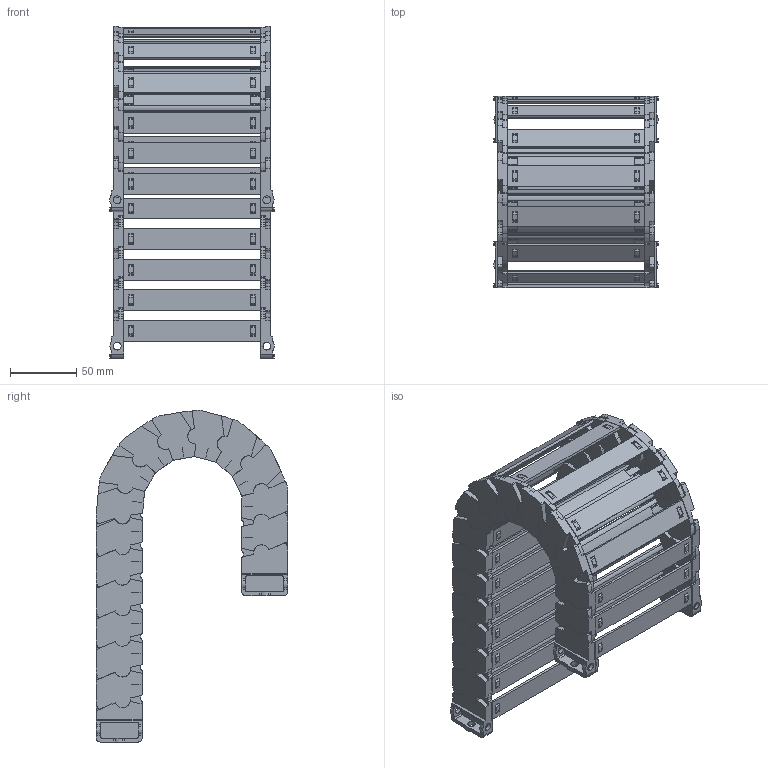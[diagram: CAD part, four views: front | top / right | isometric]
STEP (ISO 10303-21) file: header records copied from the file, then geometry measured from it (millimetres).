
FILE_DESCRIPTION((''),'2;1');
FILE_NAME('JY-25X103-R55_ASM','2022-05-07T10:15:35',('admin'),(''),'CREO PARAMETRIC BY PTC INC, 2021164','CREO PARAMETRIC BY PTC INC, 2021164','');
FILE_SCHEMA(('CONFIG_CONTROL_DESIGN','GEOMETRIC_VALIDATION_PROPERTIES_MIM'));
Length unit declared in the file: millimetre
Products named in the file (11): 25XL-L; 25-35XL-YP; 25XL-R; ASM0001_ASM; 25-LTT-A-L; 25-LTT-A-R; 25XL-LTT-A_ASM; 25-LTT-B-L; 25-LTT-B-R; 25XL-LTT-B_ASM; JY-25X103-R55_ASM
Assembly tree (29 placements, depth 3):
  JY-25X103-R55_ASM
    ASM0001_ASM  x15
      25XL-L
      25-35XL-YP
      25XL-R
    25XL-LTT-A_ASM
      25-LTT-A-L
      25-35XL-YP  x2
      25-LTT-A-R
    25XL-LTT-B_ASM
      25-LTT-B-L
      25-35XL-YP  x2
      25-LTT-B-R
Bounding box: 124.17 x 144.67 x 250.78 mm (x, y, z)
Volume: 369936.4 mm3; surface area: 273075.9 mm2
Topology: 68 solids, 83 shells, 3544 faces, 10581 edges, 7156 vertices
Faces by surface type: plane 2605, cylinder 909, cone 30
Entity records: 24023 total; most frequent: CARTESIAN_POINT 3114, DIRECTION 3009, ORIENTED_EDGE 2962, EDGE_CURVE 1483, PRESENTATION_STYLE_ASSIGNMENT 1413, STYLED_ITEM 1381, VECTOR 1053, LINE 1053
